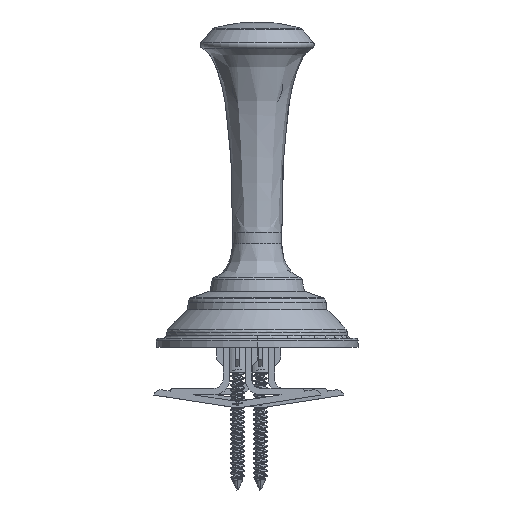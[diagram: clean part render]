
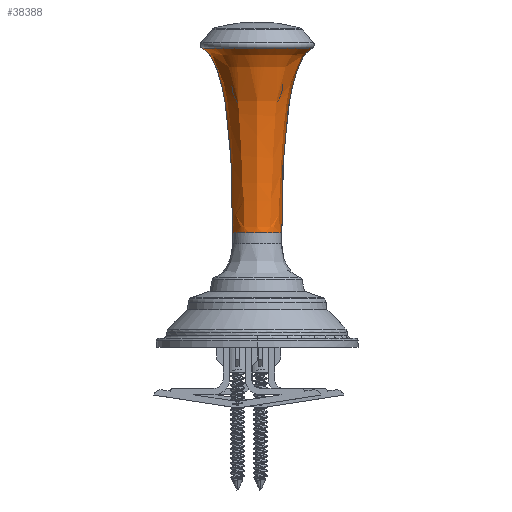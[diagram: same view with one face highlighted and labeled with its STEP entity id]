
A CAD part, left-side view. The second image highlights one B-rep face of the part: STEP entity #38388.
In plain terms, the highlighted free-form (B-spline) face has degree [3, 3] with [4, 4] control points.
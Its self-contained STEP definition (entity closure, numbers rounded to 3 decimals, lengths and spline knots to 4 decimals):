
#1939 = CARTESIAN_POINT ( 'NONE',  ( -9.5378, -0.2689, 1.249 ) ) ;
#3061 = B_SPLINE_CURVE_WITH_KNOTS ( 'NONE', 3,
 ( #69334, #35182, #46435, #22813 ),
 .UNSPECIFIED., .F., .F.,
 ( 4, 4 ),
 ( 0., 1. ),
 .UNSPECIFIED. ) ;
#5851 = DIRECTION ( 'NONE',  ( 0., -1., 0. ) ) ;
#6745 = ORIENTED_EDGE ( 'NONE', *, *, #8059, .F. ) ;
#7609 = CARTESIAN_POINT ( 'NONE',  ( -9., -0.6009, 3.264 ) ) ;
#8059 = EDGE_CURVE ( 'NONE', #35425, #31905, #3061, .T. ) ;
#8603 = ORIENTED_EDGE ( 'NONE', *, *, #27734, .F. ) ;
#8724 = CARTESIAN_POINT ( 'NONE',  ( -9., -0.2365, 3.0742 ) ) ;
#9881 = AXIS2_PLACEMENT_3D ( 'NONE', #72442, #38658, #61529 ) ;
#13444 = EDGE_LOOP ( 'NONE', ( #41597, #49279, #6745, #8603 ) ) ;
#13464 = CIRCLE ( 'NONE', #9881, 0.6009 ) ;
#13592 = CARTESIAN_POINT ( 'NONE',  ( -10.2018, 0.6009, 3.264 ) ) ;
#14708 = CARTESIAN_POINT ( 'NONE',  ( -9., 0.6009, 3.264 ) ) ;
#19211 = CARTESIAN_POINT ( 'NONE',  ( -9., 0.2689, 1.4009 ) ) ;
#20541 =( BOUNDED_SURFACE ( )  B_SPLINE_SURFACE ( 3, 3, ( 
 ( #66115, #1939, #36110, #24841 ),
 ( #47733, #59000, #70628, #19211 ),
 ( #8724, #42110, #64995, #30480 ),
 ( #7609, #48858, #13592, #14708 ) ),
 .UNSPECIFIED., .F., .F., .T. ) 
 B_SPLINE_SURFACE_WITH_KNOTS ( ( 4, 4 ),
 ( 4, 4 ),
 ( 0.0193, 0.9839 ),
 ( 0., 1. ),
 .UNSPECIFIED. ) 
 GEOMETRIC_REPRESENTATION_ITEM ( )  RATIONAL_B_SPLINE_SURFACE ( (
 ( 1., 0.333, 0.333, 1.),
 ( 1., 0.333, 0.333, 1.),
 ( 1., 0.333, 0.333, 1.),
 ( 1., 0.333, 0.333, 1.) ) ) 
 REPRESENTATION_ITEM ( '' )  SURFACE ( )  );
#22813 = CARTESIAN_POINT ( 'NONE',  ( -9., -0.2689, 1.249 ) ) ;
#24308 = CARTESIAN_POINT ( 'NONE',  ( -9., 0.2365, 3.0742 ) ) ;
#24841 = CARTESIAN_POINT ( 'NONE',  ( -9., 0.2689, 1.249 ) ) ;
#27193 = CARTESIAN_POINT ( 'NONE',  ( -9., 0.2689, 1.249 ) ) ;
#27734 = EDGE_CURVE ( 'NONE', #59561, #35425, #13464, .T. ) ;
#29720 = CARTESIAN_POINT ( 'NONE',  ( -9., -0.6009, 3.264 ) ) ;
#30480 = CARTESIAN_POINT ( 'NONE',  ( -9., 0.2365, 3.0742 ) ) ;
#31905 = VERTEX_POINT ( 'NONE', #32347 ) ;
#32347 = CARTESIAN_POINT ( 'NONE',  ( -9., -0.2689, 1.249 ) ) ;
#34286 = VERTEX_POINT ( 'NONE', #27193 ) ;
#35182 = CARTESIAN_POINT ( 'NONE',  ( -9., -0.2365, 3.0742 ) ) ;
#35425 = VERTEX_POINT ( 'NONE', #29720 ) ;
#35973 = B_SPLINE_CURVE_WITH_KNOTS ( 'NONE', 3,
 ( #71581, #48309, #24308, #47190 ),
 .UNSPECIFIED., .F., .F.,
 ( 4, 4 ),
 ( 0., 1. ),
 .UNSPECIFIED. ) ;
#36110 = CARTESIAN_POINT ( 'NONE',  ( -9.5378, 0.2689, 1.249 ) ) ;
#38388 = ADVANCED_FACE ( 'NONE', ( #48106 ), #20541, .T. ) ;
#38658 = DIRECTION ( 'NONE',  ( 0., 0., 1. ) ) ;
#39720 = AXIS2_PLACEMENT_3D ( 'NONE', #40362, #68497, #5851 ) ;
#40362 = CARTESIAN_POINT ( 'NONE',  ( -9., 0., 1.249 ) ) ;
#41597 = ORIENTED_EDGE ( 'NONE', *, *, #50665, .F. ) ;
#42110 = CARTESIAN_POINT ( 'NONE',  ( -9.4729, -0.2365, 3.0742 ) ) ;
#46435 = CARTESIAN_POINT ( 'NONE',  ( -9., -0.2689, 1.4009 ) ) ;
#47190 = CARTESIAN_POINT ( 'NONE',  ( -9., 0.6009, 3.264 ) ) ;
#47733 = CARTESIAN_POINT ( 'NONE',  ( -9., -0.2689, 1.4009 ) ) ;
#48106 = FACE_OUTER_BOUND ( 'NONE', #13444, .T. ) ;
#48309 = CARTESIAN_POINT ( 'NONE',  ( -9., 0.2689, 1.4009 ) ) ;
#48858 = CARTESIAN_POINT ( 'NONE',  ( -10.2018, -0.6009, 3.264 ) ) ;
#48935 = EDGE_CURVE ( 'NONE', #31905, #34286, #72075, .T. ) ;
#49279 = ORIENTED_EDGE ( 'NONE', *, *, #48935, .F. ) ;
#50665 = EDGE_CURVE ( 'NONE', #34286, #59561, #35973, .T. ) ;
#56834 = CARTESIAN_POINT ( 'NONE',  ( -9., 0.6009, 3.264 ) ) ;
#59000 = CARTESIAN_POINT ( 'NONE',  ( -9.5378, -0.2689, 1.4009 ) ) ;
#59561 = VERTEX_POINT ( 'NONE', #56834 ) ;
#61529 = DIRECTION ( 'NONE',  ( 0., 1., 0. ) ) ;
#64995 = CARTESIAN_POINT ( 'NONE',  ( -9.4729, 0.2365, 3.0742 ) ) ;
#66115 = CARTESIAN_POINT ( 'NONE',  ( -9., -0.2689, 1.249 ) ) ;
#68497 = DIRECTION ( 'NONE',  ( 0., 0., -1. ) ) ;
#69334 = CARTESIAN_POINT ( 'NONE',  ( -9., -0.6009, 3.264 ) ) ;
#70628 = CARTESIAN_POINT ( 'NONE',  ( -9.5378, 0.2689, 1.4009 ) ) ;
#71581 = CARTESIAN_POINT ( 'NONE',  ( -9., 0.2689, 1.249 ) ) ;
#72075 = CIRCLE ( 'NONE', #39720, 0.2689 ) ;
#72442 = CARTESIAN_POINT ( 'NONE',  ( -9., 0., 3.264 ) ) ;
